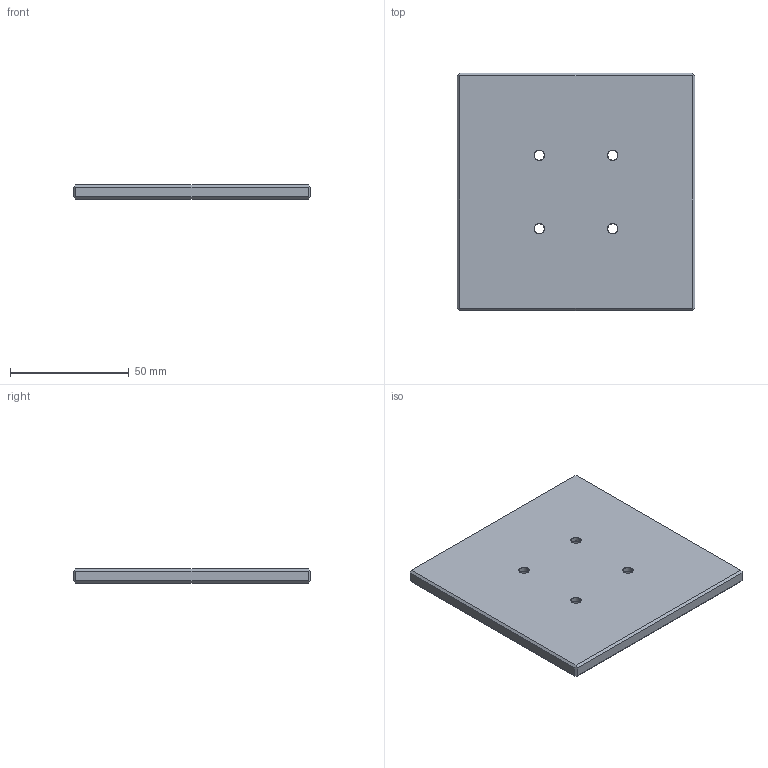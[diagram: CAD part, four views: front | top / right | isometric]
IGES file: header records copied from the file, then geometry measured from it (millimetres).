
Start section: START RECORD GO HERE.
Global section: file name: Support.igs; native system: IBM CATIA IGES - CATIA Version 5 Release 18 ; preprocessor: CATIA Version 5 Release 18 ; author: Fabien; organization: Fabien-Dell-DUO; date: 20160128.004725; units: millimetre
Bounding box: 100 x 100 x 6 mm (x, y, z)
Surface area: 22197.3 mm2 (no closed solid volume)
Topology: 0 solids, 0 shells, 70 faces, 320 edges, 320 vertices
Faces by surface type: revolution 48, plane 22
